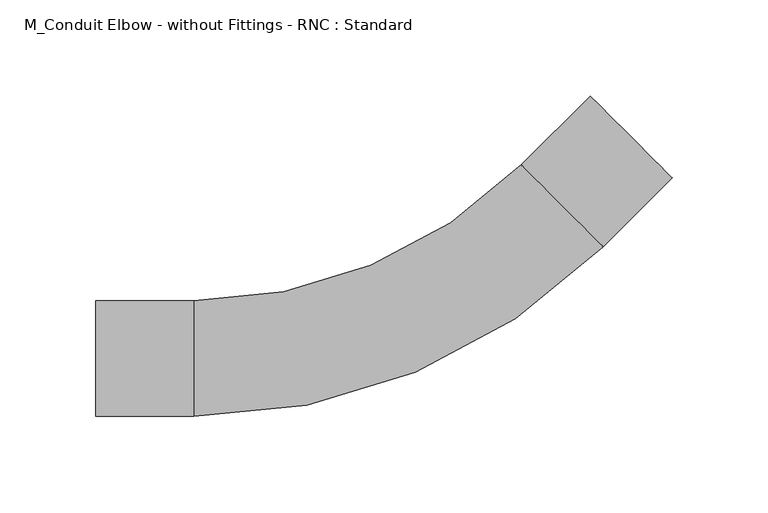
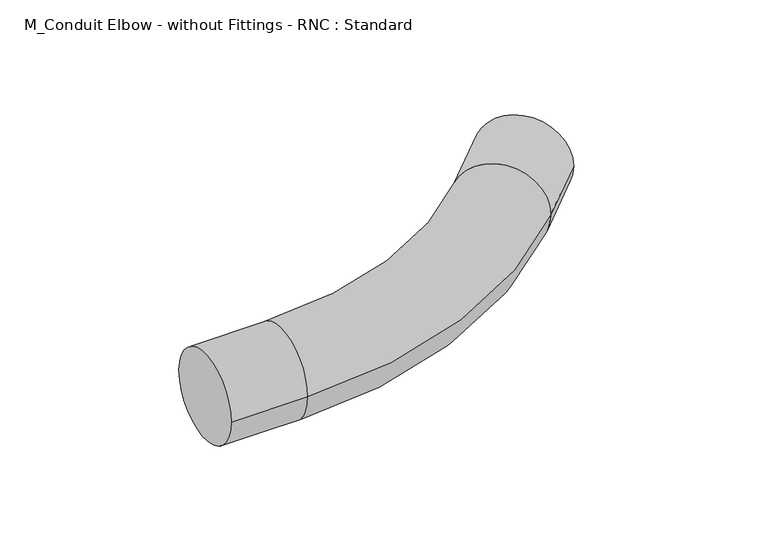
"""IFC4 building model written with IfcOpenShell, lengths in millimetres: cable carrier fitting geometry, M_Conduit Elbow - without Fittings - RNC : Standard."""

from ifc_helpers import new_model, si_unit, point, frame, origin, place, context, project, spatial, circle_curve, ellipse_curve, trimmed, source, transform, mapped, element, save
from ifc_brep_helpers import plane_surface, cylinder_surface, revolved_surface, advanced_brep


def m_conduit_elbow_without_fittings_rnc_standard_30e86c5b(model_context):
    return source(origin(), model_context, "Body", "AdvancedBrep", [
        advanced_brep(
        [(-163.2424136, -30.1625, 0.0), (-163.2424136, 30.1625, 0.0), (-112.4424136, -30.1625, 0.0), (-112.4424136, 30.1625, 0.0), (58.1806849, 100.8369015, 0.0), (100.8369015, 58.1806849, 0.0), (136.757926, 94.1017094, 0.0), (94.1017094, 136.757926, 0.0)],
        [
            (0, 1, circle_curve(frame((-163.2424136, 0.0, 0.0), z_axis=(-1.0, 0.0, 0.0), x_axis=(0.0, 1.0, 0.0)), 30.1625)),
            (1, 0, circle_curve(frame((-163.2424136, 0.0, 0.0), z_axis=(-1.0, 0.0, 0.0), x_axis=(0.0, 1.0, 0.0)), 30.1625)),
            (0, 2),
            (2, 3, circle_curve(frame((-112.4424136, 0.0, 0.0), z_axis=(-1.0, 0.0, 0.0), x_axis=(0.0, 1.0, 0.0)), 30.1625)),
            (3, 1),
            (3, 2, circle_curve(frame((-112.4424136, 0.0, 0.0), z_axis=(-1.0, 0.0, 0.0), x_axis=(0.0, 1.0, 0.0)), 30.1625)),
            (4, 3, circle_curve(frame((-112.4424136, 271.46, 0.0), z_axis=(0.0, 0.0, -1.0), x_axis=(0.0, -1.0, 0.0)), 241.2975)),
            (2, 5, circle_curve(frame((-112.4424136, 271.46, 0.0), z_axis=(0.0, 0.0, 1.0), x_axis=(0.0, -1.0, 0.0)), 301.6225)),
            (5, 4, circle_curve(frame((79.5087932, 79.5087932, 0.0), z_axis=(-0.7071067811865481, -0.7071067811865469, 0.0), x_axis=(-0.7071067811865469, 0.7071067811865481, 0.0)), 30.1625)),
            (4, 5, circle_curve(frame((79.5087932, 79.5087932, 0.0), z_axis=(-0.7071067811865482, -0.7071067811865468, 0.0), x_axis=(-0.7071067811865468, 0.7071067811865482, 0.0)), 30.1625)),
            (6, 7, circle_curve(frame((115.4298177, 115.4298177, 0.0), z_axis=(0.7071067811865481, 0.707106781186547, 0.0), x_axis=(-0.707106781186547, 0.7071067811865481, 0.0)), 30.1625)),
            (7, 6, circle_curve(frame((115.4298177, 115.4298177, 0.0), z_axis=(0.7071067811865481, 0.707106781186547, 0.0), x_axis=(-0.707106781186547, 0.7071067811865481, 0.0)), 30.1625)),
            (5, 6),
            (7, 4),
        ],
        [
            plane_surface(frame((-163.2424136, 0.0, 0.0), z_axis=(-1.0, 0.0, 0.0), x_axis=(0.0, 0.0, 1.0))),
            cylinder_surface(frame((-163.2424136, 0.0, 0.0), z_axis=(-1.0, 0.0, 0.0), x_axis=(0.0, 1.0, 0.0)), 30.1625),
            revolved_surface(trimmed(ellipse_curve(frame((-112.4424136, 0.0, 0.0), z_axis=(-1.0, 0.0, 0.0), x_axis=(0.0, 1.0, 0.0)), 30.1625, 30.1625), [point((-112.4424136, -30.1625, 0.0))], [point((-112.4424136, 30.1625, 0.0))], True, "CARTESIAN"), (-112.4424136, 271.46, 0.0), (0.0, 0.0, 1.0)),
            revolved_surface(trimmed(ellipse_curve(frame((-112.4424136, 0.0, 0.0), z_axis=(-1.0, 0.0, 0.0), x_axis=(0.0, 1.0, 0.0)), 30.1625, 30.1625), [point((-112.4424136, 30.1625, 0.0))], [point((-112.4424136, -30.1625, 0.0))], True, "CARTESIAN"), (-112.4424136, 271.46, 0.0), (0.0, 0.0, 1.0)),
            plane_surface(frame((115.4298177, 115.4298177, 0.0), z_axis=(0.7071067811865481, 0.707106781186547, 0.0), x_axis=(0.0, 0.0, 1.0))),
            cylinder_surface(frame((79.5087932, 79.5087932, 0.0), z_axis=(-0.7071067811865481, -0.707106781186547, 0.0), x_axis=(-0.707106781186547, 0.7071067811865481, 0.0)), 30.1625),
        ],
        [
            (0, [[1, 2]]),
            (1, [[-1, 3, 4, 5]]),
            (1, [[-2, -5, 6, -3]]),
            (2, [[7, -4, 8, 9]]),
            (3, [[-8, -6, -7, 10]]),
            (4, [[11, 12]]),
            (5, [[-9, 13, -12, 14]]),
            (5, [[-10, -14, -11, -13]]),
        ],
    ),
    ])


if __name__ == "__main__":
    model = new_model("IFC4")
    model_context = context("Model", 3, world=origin())
    ifc_project = project(units=[si_unit("LENGTHUNIT", "METRE", prefix="MILLI")], contexts=[model_context])
    site = spatial("IfcSite", under=ifc_project)
    building = spatial("IfcBuilding", under=site)
    placement = place(None, origin())
    m_conduit_elbow_without_fittings_rnc_standard_shape = m_conduit_elbow_without_fittings_rnc_standard_30e86c5b(model_context)
    element("IfcCableCarrierFitting", 1, ObjectType="M_Conduit Elbow - without Fittings - RNC : Standard", at=placement, inside=building, context=model_context, shape_type="MappedRepresentation", body=[
        mapped(m_conduit_elbow_without_fittings_rnc_standard_shape, transform((0.0, 0.0, 0.0), x_axis=(1.0, 0.0, 0.0), y_axis=(0.0, 1.0, 0.0), z_axis=(0.0, 0.0, 1.0))),
    ])
    save(model, "model.ifc")
